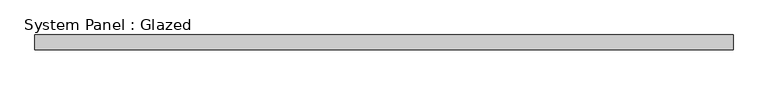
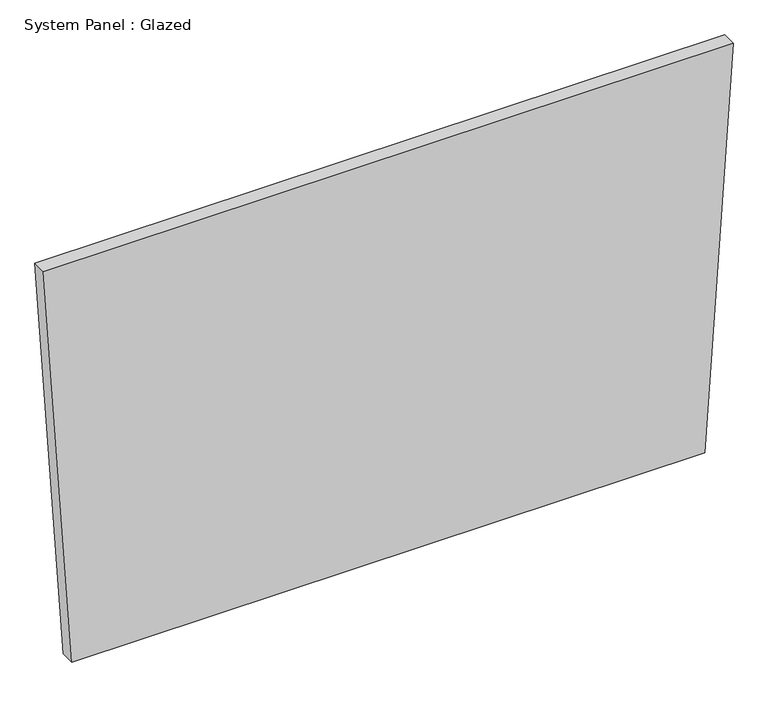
"""IFC4 building model written with IfcOpenShell, lengths in millimetres: plate geometry, System Panel : Glazed."""

from ifc_helpers import new_model, si_unit, frame, origin, place, context, project, spatial, polyline, outline, extrude, source, transform, mapped, element, save


def system_panel_glazed_4b19afda(model_context):
    return source(origin(), model_context, "Body", "SweptSolid", [
        extrude(outline(polyline([(0.0, -540.86673), (0.0007723, 540.8667254), (723.2682111, 589.5550119), (723.2673693, -589.5550119), (0.0, -540.86673)])), frame((0.0, 19.05, 0.0), z_axis=(0.0, 1.0, 0.0), x_axis=(0.0, 0.0, 1.0)), (0.0, 0.0, 1.0), 25.4),
    ])


if __name__ == "__main__":
    model = new_model("IFC4")
    model_context = context("Model", 3, world=origin())
    ifc_project = project(units=[si_unit("LENGTHUNIT", "METRE", prefix="MILLI")], contexts=[model_context])
    site = spatial("IfcSite", under=ifc_project)
    building = spatial("IfcBuilding", under=site)
    placement = place(None, origin())
    system_panel_glazed_shape = system_panel_glazed_4b19afda(model_context)
    element("IfcPlate", 1, ObjectType="System Panel : Glazed", at=placement, inside=building, context=model_context, shape_type="MappedRepresentation", body=[
        mapped(system_panel_glazed_shape, transform((0.0, 0.0, 0.0), x_axis=(1.0, 0.0, 0.0), y_axis=(0.0, 1.0, 0.0), z_axis=(0.0, 0.0, 1.0))),
    ])
    save(model, "model.ifc")
